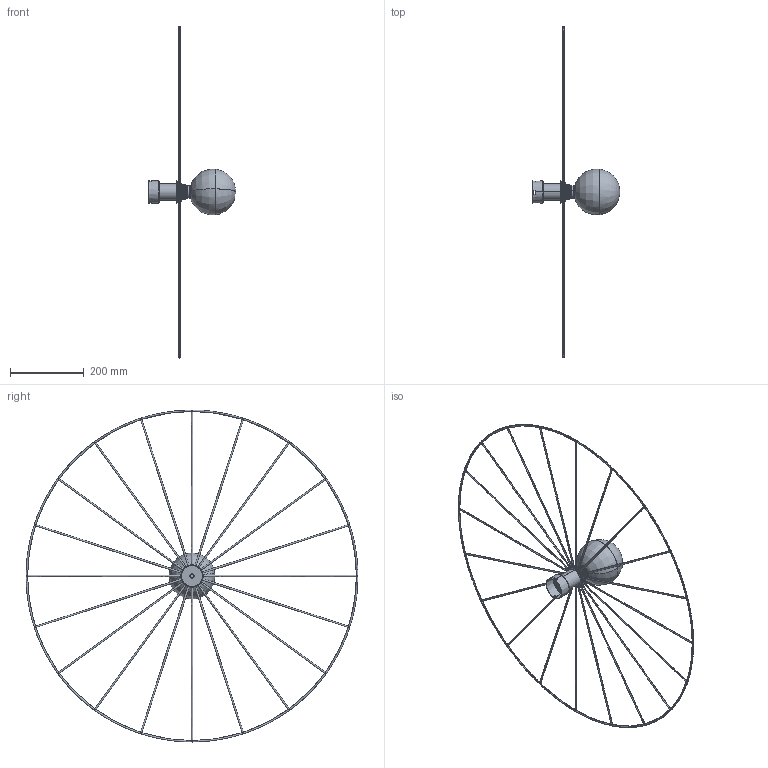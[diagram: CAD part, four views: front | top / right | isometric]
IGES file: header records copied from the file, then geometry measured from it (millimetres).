
Start section: SolidWorks IGES file using analytic representation for surfaces
Global section: file name: C:\Users\Agus\Desktop\Libreria modelos\1052 - Wheel\A1053+A1052\90\R1053-90.IGS; native system: SolidWorks 2016; preprocessor: SolidWorks 2016; author: Agus; date: 170601.104114; units: millimetre
Bounding box: 237.73 x 899.71 x 900 mm (x, y, z)
Surface area: 280363.9 mm2 (no closed solid volume)
Topology: 0 solids, 0 shells, 335 faces, 7316 edges, 7315 vertices
Faces by surface type: revolution 191, bspline 144
